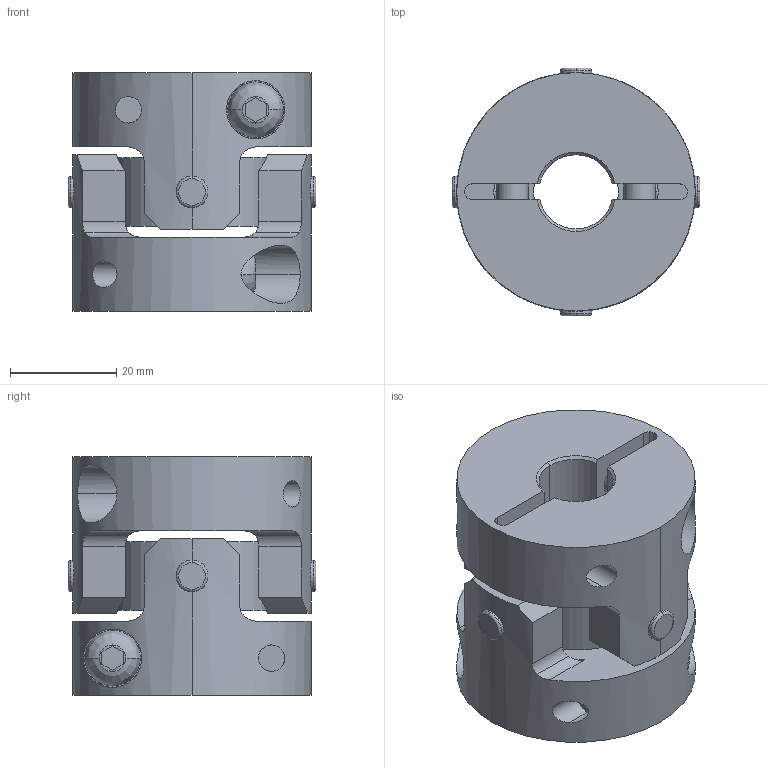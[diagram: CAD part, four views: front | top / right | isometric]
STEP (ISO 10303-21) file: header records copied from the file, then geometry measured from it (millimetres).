
FILE_DESCRIPTION((''),'2;1');
FILE_NAME('UA-45C-14×22.stp','2013-05-22T10:06:55',(''),(''),'AutoCAD STEP 2000i','AutoCAD 2000i',', , ');
FILE_SCHEMA(('CONFIG_CONTROL_DESIGN'));
Length unit declared in the file: millimetre
Products named in the file (7): UA-45C-8×17; 忣兜1; UA-4502-D17; BTN-M6; UA-4502-D08-1; UA-4502-D08; UA45-SEN
Assembly tree (8 placements, depth 3):
  UA-45C-8×17
    忣兜1
    UA-4502-D17
      BTN-M6
    UA-4502-D08-1
      BTN-M6
    UA-4502-D08
      BTN-M6
    UA45-SEN
Bounding box: 46.73 x 46.73 x 45 mm (x, y, z)
Volume: 47008.5 mm3; surface area: 19586.9 mm2
Topology: 1 solids, 1 shells, 206 faces, 554 edges, 364 vertices
Faces by surface type: cylinder 96, plane 78, cone 16, bspline 8, torus 8
Entity records: 8537 total; most frequent: CARTESIAN_POINT 3201, ORIENTED_EDGE 1108, DIRECTION 1068, EDGE_CURVE 554, AXIS2_PLACEMENT_3D 411, VERTEX_POINT 364, VECTOR 246, LINE 246
